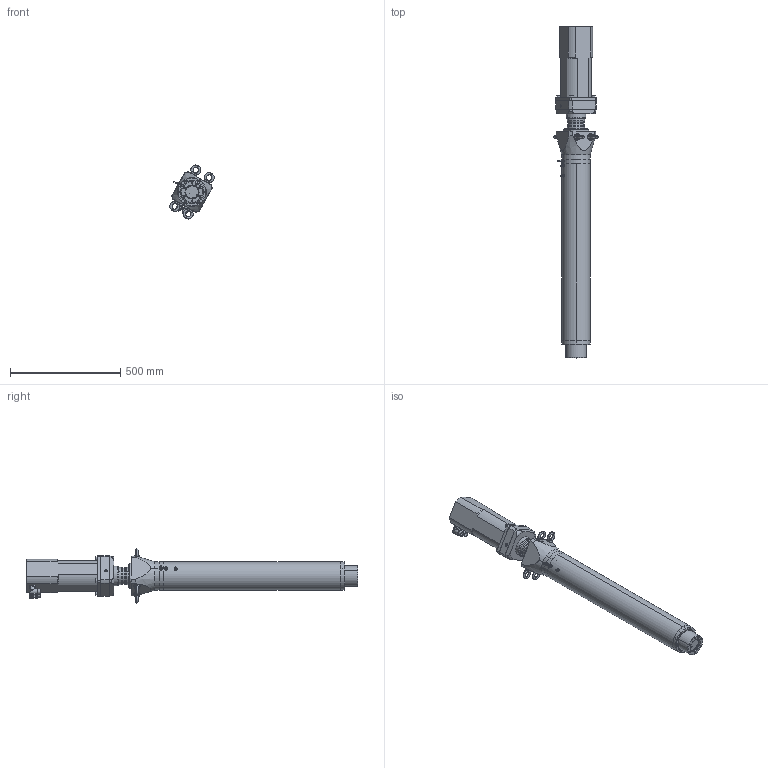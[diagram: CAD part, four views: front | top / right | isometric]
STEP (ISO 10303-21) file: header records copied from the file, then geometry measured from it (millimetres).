
FILE_DESCRIPTION (( 'STEP AP214' ), '1' );
FILE_NAME ('RLWIK030D-055-025HG0.STEP', '2023-04-05T14:05:20', ( '' ), ( '' ), 'SwSTEP 2.0', 'SolidWorks 2021', '' );
FILE_SCHEMA (( 'AUTOMOTIVE_DESIGN' ));
Length unit declared in the file: millimetre
Products named in the file (1): RLWIK030D-055-025HG0
Bounding box: 200.61 x 1502.5 x 244.54 mm (x, y, z)
Volume: 15933442 mm3; surface area: 1604047.8 mm2
Topology: 33 solids, 33 shells, 1107 faces, 2594 edges, 1553 vertices
Faces by surface type: cylinder 451, plane 340, cone 236, torus 60, bspline 18, sphere 2
Entity records: 45776 total; most frequent: CARTESIAN_POINT 7781, DIRECTION 5687, ORIENTED_EDGE 4948, EDGE_CURVE 2474, AXIS2_PLACEMENT_3D 2285, VERTEX_POINT 1553, EDGE_LOOP 1315, CIRCLE 1195
